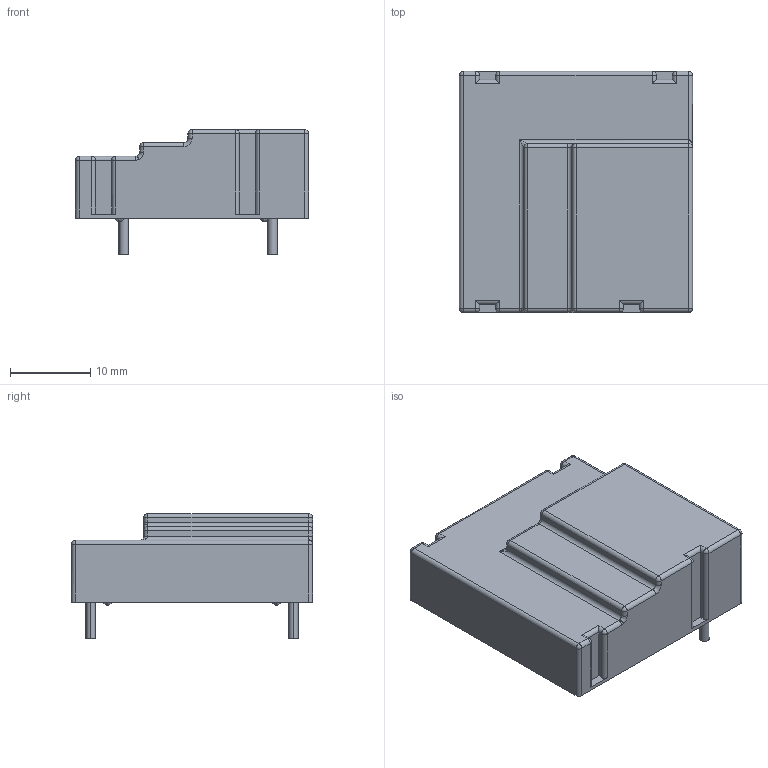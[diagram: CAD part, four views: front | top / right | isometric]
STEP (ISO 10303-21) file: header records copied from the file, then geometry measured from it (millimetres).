
FILE_DESCRIPTION((''),'2;1');
FILE_NAME('TFMOV25SL-101-20200811','2020-08-11T',('SET-01114'),(''),'PRO/ENGINEER BY PARAMETRIC TECHNOLOGY CORPORATION, 2012310','PRO/ENGINEER BY PARAMETRIC TECHNOLOGY CORPORATION, 2012310','');
FILE_SCHEMA(('CONFIG_CONTROL_DESIGN','SHAPE_APPEARANCE_LAYERS_GROUPS'));
Length unit declared in the file: millimetre
Products named in the file (1): TFMOV25SL-101-20200811
Bounding box: 29 x 30 x 15.5 mm (x, y, z)
Volume: 2312.3 mm3; surface area: 5348.1 mm2
Topology: 1 solids, 2 shells, 206 faces, 603 edges, 377 vertices
Faces by surface type: cylinder 89, plane 68, sphere 29, bspline 13, torus 7
Entity records: 8917 total; most frequent: CARTESIAN_POINT 1757, DIRECTION 1167, ORIENTED_EDGE 1142, PRESENTATION_STYLE_ASSIGNMENT 572, STYLED_ITEM 572, CURVE_STYLE 571, EDGE_CURVE 571, AXIS2_PLACEMENT_3D 452
